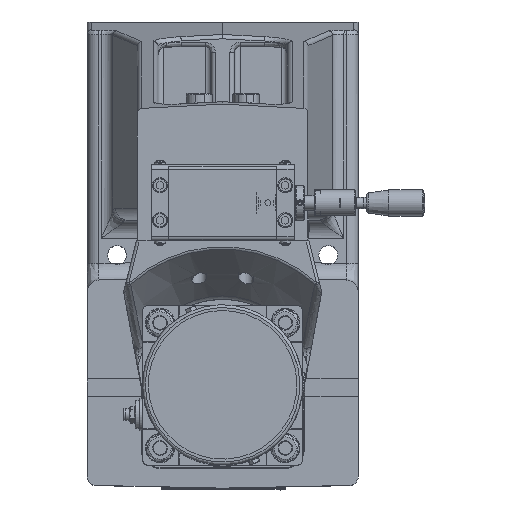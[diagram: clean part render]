
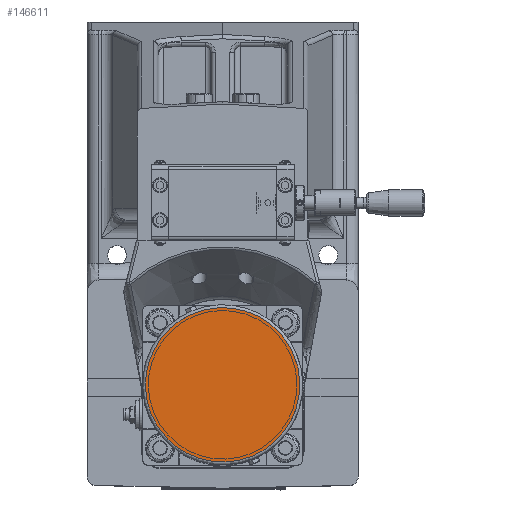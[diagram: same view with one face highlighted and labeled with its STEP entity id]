
A CAD part, top view. The second image highlights one B-rep face of the part: STEP entity #146611.
In plain terms, the highlighted planar face has unit normal (0, 0, 1).
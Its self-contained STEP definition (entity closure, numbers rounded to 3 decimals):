
#38246=PLANE('',#154784);
#45264=FACE_OUTER_BOUND('',#53426,.T.);
#53426=EDGE_LOOP('',(#113161));
#59294=CIRCLE('',#154783,53.);
#66333=VERTEX_POINT('',#219530);
#83201=EDGE_CURVE('',#66333,#66333,#59294,.T.);
#113161=ORIENTED_EDGE('',*,*,#83201,.F.);
#146611=ADVANCED_FACE('',(#45264),#38246,.F.);
#154783=AXIS2_PLACEMENT_3D('',#219531,#173105,#173106);
#154784=AXIS2_PLACEMENT_3D('',#219532,#173107,#173108);
#173105=DIRECTION('center_axis',(0.,0.,
-1.));
#173106=DIRECTION('ref_axis',(-0.924,-0.383,0.));
#173107=DIRECTION('center_axis',(0.,0.,
-1.));
#173108=DIRECTION('ref_axis',(-0.924,-0.383,0.));
#219530=CARTESIAN_POINT('',(48.966,-11.718,797.75));
#219531=CARTESIAN_POINT('Origin',(0.,-32.,
797.75));
#219532=CARTESIAN_POINT('Origin',(0.,-32.,
797.75));
